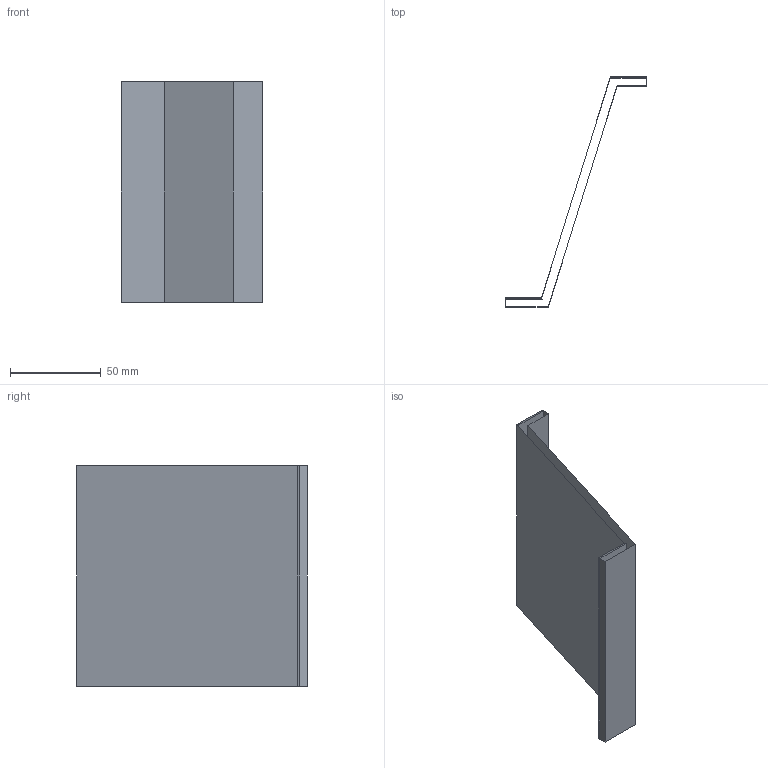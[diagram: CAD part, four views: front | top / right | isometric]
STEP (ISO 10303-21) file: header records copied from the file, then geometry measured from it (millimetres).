
FILE_DESCRIPTION(('CATIA V5 STEP Exchange'),'2;1');
FILE_NAME('C:\_Andres\UNIVERSIDAD\IQS\ASIGNATURAS\DAO\EXF\EXF-16172c\2inicio\Pascual_Sarrias_Ej06_v22.stp','2017-03-05T21:01:26+00:00',('none'),('none'),'CATIA Version 5-6 Release 2014 SP1 HF18','CATIA V5 STEP AP203','none');
FILE_SCHEMA(('CONFIG_CONTROL_DESIGN'));
Length unit declared in the file: millimetre
Products named in the file (1): Pascual_Sarrias_Ej06_v22
Bounding box: 78 x 127 x 122 mm (x, y, z)
Surface area: 46794.6 mm2 (no closed solid volume)
Topology: 0 solids, 2 shells, 10 faces, 42 edges, 36 vertices
Faces by surface type: plane 10
Entity records: 461 total; most frequent: CARTESIAN_POINT 100, DIRECTION 59, ORIENTED_EDGE 40, VECTOR 39, LINE 39, EDGE_CURVE 32, VERTEX_POINT 24, AXIS2_PLACEMENT_3D 11
